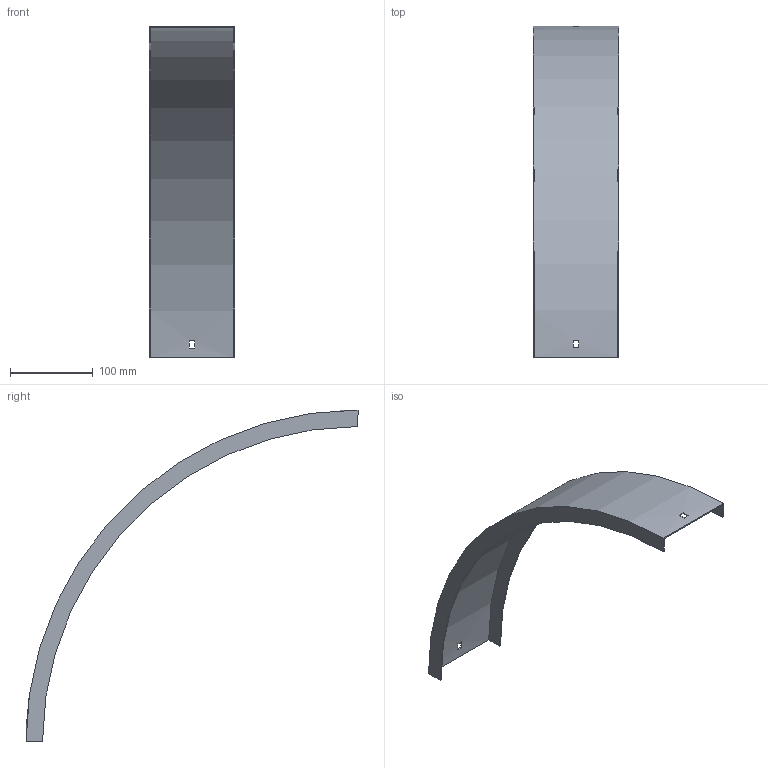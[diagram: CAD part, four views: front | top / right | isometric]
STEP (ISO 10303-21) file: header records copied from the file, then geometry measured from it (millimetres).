
FILE_DESCRIPTION (( 'STEP AP214' ), '1' );
FILE_NAME ('B2_33N3D100.step', '2025-02-21T10:46:54', ( '' ), ( '' ), 'SwSTEP 2.0', 'SolidWorks 2023', '' );
FILE_SCHEMA (( 'AUTOMOTIVE_DESIGN' ));
Length unit declared in the file: millimetre
Products named in the file (1): B2_33N3D100
Bounding box: 103 x 401.5 x 401.5 mm (x, y, z)
Volume: 131146.8 mm3; surface area: 177176.9 mm2
Topology: 1 solids, 1 shells, 18 faces, 48 edges, 32 vertices
Faces by surface type: plane 14, cylinder 4
Entity records: 599 total; most frequent: DIRECTION 102, CARTESIAN_POINT 99, ORIENTED_EDGE 96, EDGE_CURVE 48, AXIS2_PLACEMENT_3D 35, VERTEX_POINT 32, VECTOR 32, LINE 32
